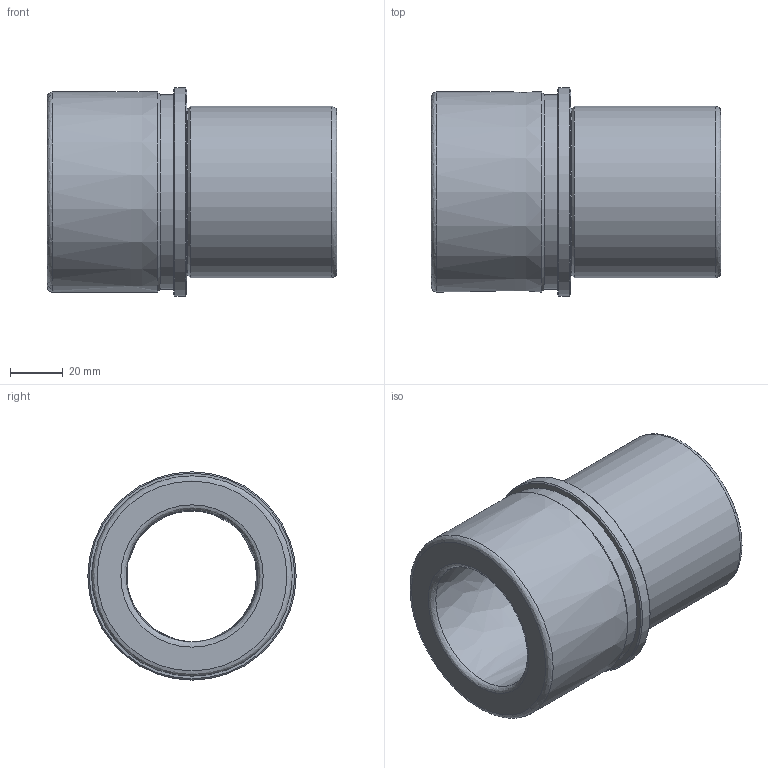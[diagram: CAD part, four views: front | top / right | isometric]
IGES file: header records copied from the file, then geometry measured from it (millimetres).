
Start section: Data from Parasolid IGES Translator 20.0.26, Copyright(c) 2006 Siemens P LM Software. All Rights Reserved.
Global section: file name: WZ - 4051 50 x 110.igs; native system: By Siemens PLM Incorporated; preprocessor: XPlus GENERIC/IGES 20.0.26; author: Noname; organization: Noname; date: 20201204.204253; units: millimetre
Bounding box: 110 x 79 x 79 mm (x, y, z)
Surface area: 47795.8 mm2 (no closed solid volume)
Topology: 0 solids, 0 shells, 21 faces, 82 edges, 59 vertices
Faces by surface type: revolution 16, extrusion 5
